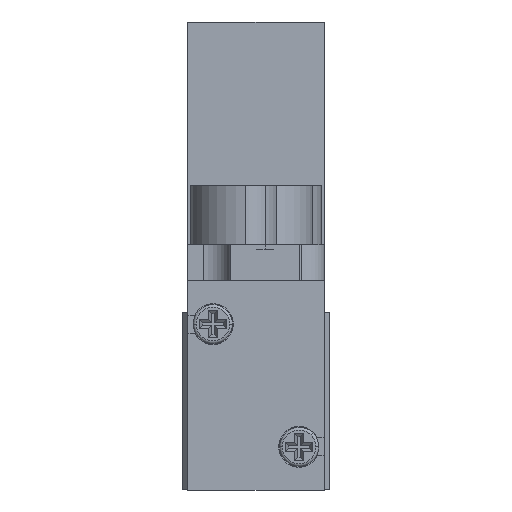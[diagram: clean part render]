
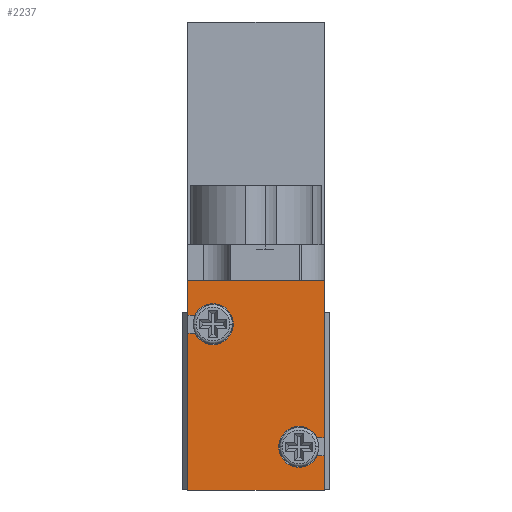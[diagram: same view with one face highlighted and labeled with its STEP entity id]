
A CAD part, front view. The second image highlights one B-rep face of the part: STEP entity #2237.
In plain terms, the highlighted planar face has unit normal (0, -1, 0) as drawn and (0, 0, -1) by its records, which use the part's own axes.
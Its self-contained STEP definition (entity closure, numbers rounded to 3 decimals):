
#2237=ADVANCED_FACE('0:5937',(#4460),#4461,.T.);
#4460=FACE_OUTER_BOUND('',#7258,.T.);
#4461=PLANE('',#7259);
#7258=EDGE_LOOP('',(#13527,#13528,#13529,#13530,#13531,#13532,#13533,#13534,#13535,#13536,#13537,#13538,#13539,#13540));
#7259=AXIS2_PLACEMENT_3D('',#13541,#13542,#13543);
#13527=ORIENTED_EDGE('',*,*,#16289,.F.);
#13528=ORIENTED_EDGE('',*,*,#16290,.F.);
#13529=ORIENTED_EDGE('',*,*,#16219,.F.);
#13530=ORIENTED_EDGE('',*,*,#16291,.T.);
#13531=ORIENTED_EDGE('',*,*,#16283,.F.);
#13532=ORIENTED_EDGE('',*,*,#16287,.F.);
#13533=ORIENTED_EDGE('',*,*,#16268,.F.);
#13534=ORIENTED_EDGE('',*,*,#16292,.F.);
#13535=ORIENTED_EDGE('',*,*,#16222,.F.);
#13536=ORIENTED_EDGE('',*,*,#16256,.F.);
#13537=ORIENTED_EDGE('',*,*,#16293,.T.);
#13538=ORIENTED_EDGE('',*,*,#16272,.F.);
#13539=ORIENTED_EDGE('',*,*,#16277,.F.);
#13540=ORIENTED_EDGE('',*,*,#16280,.F.);
#13541=CARTESIAN_POINT('',(7.5,11.5,-9.0));
#13542=DIRECTION('',(0.0,0.0,-1.0));
#13543=DIRECTION('',(0.0,-1.0,0.0));
#16219=EDGE_CURVE('0:6150',#19865,#19861,#19867,.T.);
#16222=EDGE_CURVE('',#19869,#19872,#19873,.T.);
#16256=EDGE_CURVE('0:6066',#19920,#19869,#19922,.T.);
#16268=EDGE_CURVE('0:6096',#19938,#19940,#19941,.T.);
#16272=EDGE_CURVE('0:6108',#19946,#19948,#19949,.T.);
#16277=EDGE_CURVE('0:6120',#19954,#19946,#19956,.T.);
#16280=EDGE_CURVE('0:6126',#19958,#19954,#19960,.T.);
#16283=EDGE_CURVE('0:6135',#19963,#19965,#19966,.T.);
#16287=EDGE_CURVE('0:6144',#19940,#19963,#19970,.T.);
#16289=EDGE_CURVE('0:6147',#19972,#19958,#19973,.T.);
#16290=EDGE_CURVE('',#19861,#19972,#19974,.T.);
#16291=EDGE_CURVE('0:6153',#19865,#19965,#19975,.T.);
#16292=EDGE_CURVE('0:6156',#19872,#19938,#19976,.T.);
#16293=EDGE_CURVE('0:6159',#19920,#19948,#19977,.T.);
#19861=VERTEX_POINT('',#33375);
#19865=VERTEX_POINT('NONE',#33380);
#19867=CIRCLE('',#33383,2.25);
#19869=VERTEX_POINT('',#33385);
#19872=VERTEX_POINT('NONE',#33389);
#19873=CIRCLE('',#33390,2.25);
#19920=VERTEX_POINT('NONE',#33442);
#19922=CIRCLE('',#33445,2.25);
#19938=VERTEX_POINT('NONE',#33467);
#19940=VERTEX_POINT('NONE',#33470);
#19941=LINE('',#33471,#33472);
#19946=VERTEX_POINT('NONE',#33479);
#19948=VERTEX_POINT('NONE',#33482);
#19949=LINE('',#33483,#33484);
#19954=VERTEX_POINT('NONE',#33491);
#19956=LINE('',#33494,#33495);
#19958=VERTEX_POINT('NONE',#33497);
#19960=LINE('',#33500,#33501);
#19963=VERTEX_POINT('NONE',#33505);
#19965=VERTEX_POINT('NONE',#33508);
#19966=LINE('',#33509,#33510);
#19970=LINE('',#33516,#33517);
#19972=VERTEX_POINT('NONE',#33519);
#19973=LINE('',#33520,#33521);
#19974=CIRCLE('',#33522,2.25);
#19975=LINE('',#33523,#33524);
#19976=LINE('',#33525,#33526);
#19977=LINE('',#33527,#33528);
#33375=CARTESIAN_POINT('',(-2.5,-6.75,-9.0));
#33380=CARTESIAN_POINT('',(-6.766,-5.75,-9.0));
#33383=AXIS2_PLACEMENT_3D('',#36247,#36248,#36249);
#33385=CARTESIAN_POINT('',(2.5,6.75,-9.0));
#33389=CARTESIAN_POINT('',(6.766,7.75,-9.0));
#33390=AXIS2_PLACEMENT_3D('',#36251,#36252,#36253);
#33442=CARTESIAN_POINT('',(6.766,5.75,-9.0));
#33445=AXIS2_PLACEMENT_3D('',#36314,#36315,#36316);
#33467=CARTESIAN_POINT('',(7.5,7.75,-9.0));
#33470=CARTESIAN_POINT('',(7.5,11.5,-9.0));
#33471=CARTESIAN_POINT('',(7.5,-11.5,-9.0));
#33472=VECTOR('',#36327,1.0);
#33479=CARTESIAN_POINT('',(7.5,-11.5,-9.0));
#33482=CARTESIAN_POINT('',(7.5,5.75,-9.0));
#33483=CARTESIAN_POINT('',(7.5,-11.5,-9.0));
#33484=VECTOR('',#36331,1.0);
#33491=CARTESIAN_POINT('',(-7.5,-11.5,-9.0));
#33494=CARTESIAN_POINT('',(-7.5,-11.5,-9.0));
#33495=VECTOR('',#36335,1.0);
#33497=CARTESIAN_POINT('',(-7.5,-7.75,-9.0));
#33500=CARTESIAN_POINT('',(-7.5,-11.5,-9.0));
#33501=VECTOR('',#36337,1.0);
#33505=CARTESIAN_POINT('',(-7.5,11.5,-9.0));
#33508=CARTESIAN_POINT('',(-7.5,-5.75,-9.0));
#33509=CARTESIAN_POINT('',(-7.5,-11.5,-9.0));
#33510=VECTOR('',#36340,1.0);
#33516=CARTESIAN_POINT('',(-7.5,11.5,-9.0));
#33517=VECTOR('',#36343,1.0);
#33519=CARTESIAN_POINT('',(-6.766,-7.75,-9.0));
#33520=CARTESIAN_POINT('',(-6.766,-7.75,-9.0));
#33521=VECTOR('',#36344,1.0);
#33522=AXIS2_PLACEMENT_3D('',#36345,#36346,#36347);
#33523=CARTESIAN_POINT('',(-6.766,-5.75,-9.0));
#33524=VECTOR('',#36348,1.0);
#33525=CARTESIAN_POINT('',(-21.5,7.75,-9.0));
#33526=VECTOR('',#36349,1.0);
#33527=CARTESIAN_POINT('',(-21.5,5.75,-9.0));
#33528=VECTOR('',#36350,1.0);
#36247=CARTESIAN_POINT('',(-4.75,-6.75,-9.0));
#36248=DIRECTION('',(0.0,0.0,-1.0));
#36249=DIRECTION('',(-1.0,0.0,0.0));
#36251=CARTESIAN_POINT('',(4.75,6.75,-9.0));
#36252=DIRECTION('',(0.0,0.0,-1.0));
#36253=DIRECTION('',(-1.0,0.0,0.0));
#36314=CARTESIAN_POINT('',(4.75,6.75,-9.0));
#36315=DIRECTION('',(0.0,0.0,-1.0));
#36316=DIRECTION('',(-1.0,0.0,0.0));
#36327=DIRECTION('',(0.0,1.0,0.0));
#36331=DIRECTION('',(0.0,1.0,0.0));
#36335=DIRECTION('',(1.0,0.0,0.0));
#36337=DIRECTION('',(-0.0,-1.0,-0.0));
#36340=DIRECTION('',(-0.0,-1.0,-0.0));
#36343=DIRECTION('',(-1.0,-0.0,-0.0));
#36344=DIRECTION('',(-1.0,0.0,0.0));
#36345=CARTESIAN_POINT('',(-4.75,-6.75,-9.0));
#36346=DIRECTION('',(0.0,0.0,-1.0));
#36347=DIRECTION('',(-1.0,0.0,0.0));
#36348=DIRECTION('',(-1.0,0.0,0.0));
#36349=DIRECTION('',(1.0,0.0,0.0));
#36350=DIRECTION('',(1.0,0.0,0.0));
